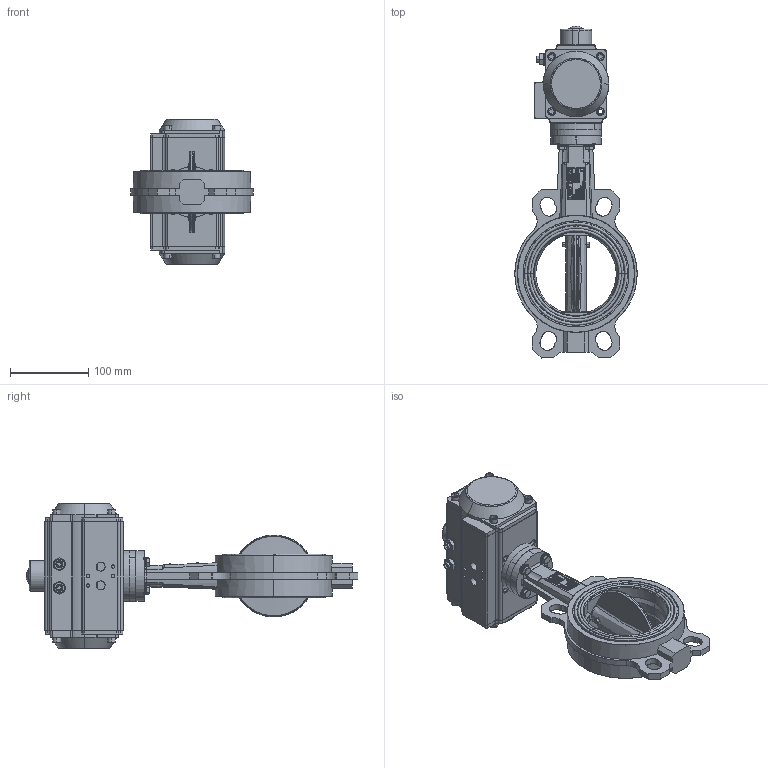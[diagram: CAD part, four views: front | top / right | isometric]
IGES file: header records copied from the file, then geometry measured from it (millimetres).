
Start section: SolidWorks IGES file using analytic representation for surfaces
Global section: file name: H:\BE FABRICATION\BE SERIE\VP\VP SERIE\F072 VPG\plan 3D\VPG-N03\WAFER\DN100\VPG444X-N03XX0100.igs; native system: SolidWorks 2020; preprocessor: SolidWorks 2020; author: k.gigout; date: 220627.174054; units: millimetre
Bounding box: 156 x 423.43 x 186 mm (x, y, z)
Surface area: 241306.2 mm2 (no closed solid volume)
Topology: 0 solids, 0 shells, 769 faces, 18664 edges, 18660 vertices
Faces by surface type: bspline 472, revolution 297
